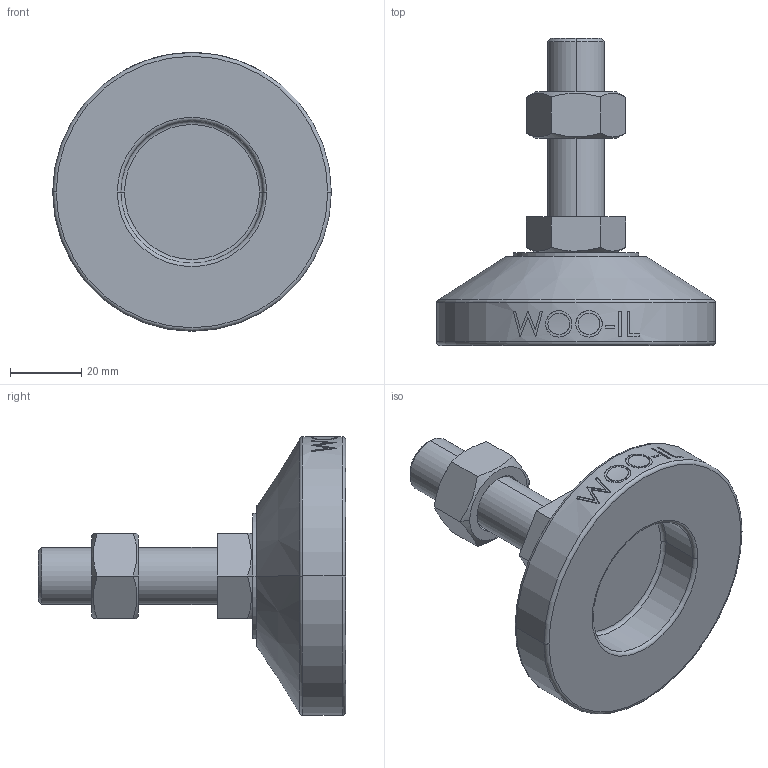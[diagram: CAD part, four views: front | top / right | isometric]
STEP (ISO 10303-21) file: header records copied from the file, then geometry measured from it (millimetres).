
FILE_DESCRIPTION (( 'STEP AP214' ), '1' );
FILE_NAME ('MF78-M16-50.step', '2021-02-03T08:21:09', ( '' ), ( '' ), 'SwSTEP 2.0', 'SolidWorks 2019', '' );
FILE_SCHEMA (( 'AUTOMOTIVE_DESIGN' ));
Length unit declared in the file: millimetre
Products named in the file (2): MF78-M16-50
Bounding box: 78 x 86 x 78 mm (x, y, z)
Volume: 98658.2 mm3; surface area: 21234.8 mm2
Topology: 3 solids, 3 shells, 106 faces, 243 edges, 154 vertices
Faces by surface type: plane 48, cylinder 18, bspline 16, cone 14, torus 10
Entity records: 4520 total; most frequent: CARTESIAN_POINT 2177, ORIENTED_EDGE 486, DIRECTION 439, EDGE_CURVE 243, AXIS2_PLACEMENT_3D 170, VERTEX_POINT 154, EDGE_LOOP 119, FACE_OUTER_BOUND 106
